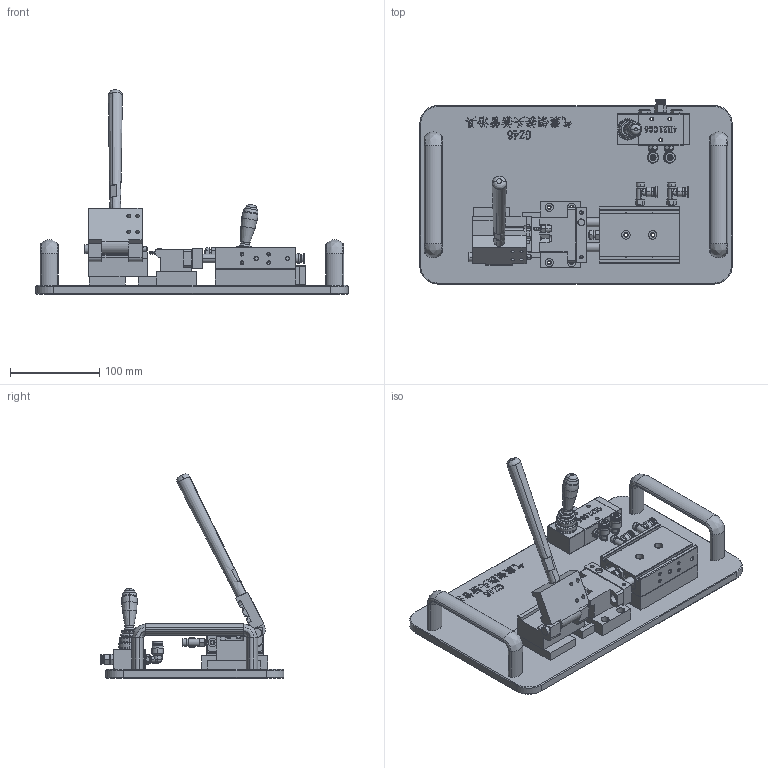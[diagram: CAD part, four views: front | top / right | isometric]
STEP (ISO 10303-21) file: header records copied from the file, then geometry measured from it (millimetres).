
FILE_DESCRIPTION (( 'STEP AP214' ), '1' );
FILE_NAME ('GZ46.00_V1气囊铜接头插管治具.STEP', '2021-06-25T06:28:59', ( '微软中国' ), ( 'Microsoft' ), 'SwSTEP 2.0', 'SolidWorks 2017', '' );
FILE_SCHEMA (( 'AUTOMOTIVE_DESIGN' ));
Length unit declared in the file: millimetre
Products named in the file (20): 种粣; PL601; PC601; BSLM01; 忒梟; 4H21006; BPC0010184; 嘐隅釱; 奻揤輸; 盓傅啣; 狟揤輸; 賑雄菁釱; ァ詰菜輸; 菁釱-V02; 絳砃輸; 菁釱; XAG24-A20-L128; GZ46.00_V1气囊铜接头插管治具; TR20X15S; PTL6M5A-M
Assembly tree (24 placements, depth 2):
  GZ46.00_V1气囊铜接头插管治具
    菁釱
    絳砃輸  x2
    菁釱-V02
    ァ詰菜輸
    賑雄菁釱
    狟揤輸
    盓傅啣
    奻揤輸
    嘐隅釱
    BPC0010184
    4H21006
    忒梟
    BSLM01  x2
    PC601
    PL601  x2
    种粣
    PTL6M5A-M  x2
    TR20X15S
    XAG24-A20-L128  x2
Bounding box: 350 x 206.25 x 229.01 mm (x, y, z)
Volume: 1328290.4 mm3; surface area: 337199.6 mm2
Topology: 25 solids, 25 shells, 2269 faces, 5667 edges, 3584 vertices
Faces by surface type: plane 970, cylinder 513, bspline 397, cone 375, torus 14
Entity records: 92605 total; most frequent: CARTESIAN_POINT 28937, ORIENTED_EDGE 9914, DIRECTION 8584, EDGE_CURVE 4957, VERTEX_POINT 3191, VECTOR 2910, LINE 2910, AXIS2_PLACEMENT_3D 2837
